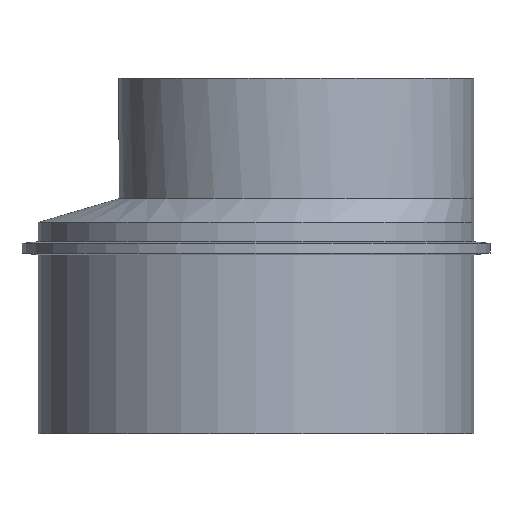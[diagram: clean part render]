
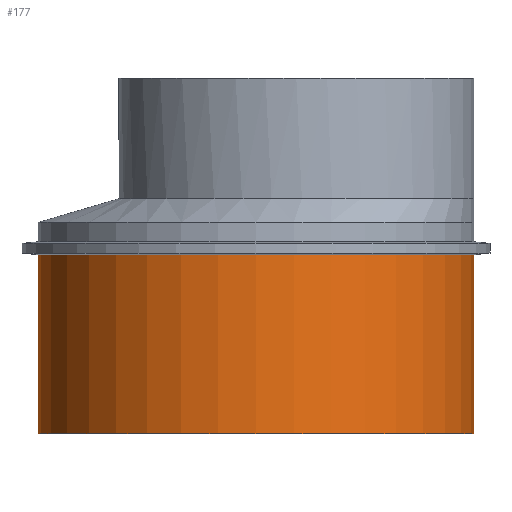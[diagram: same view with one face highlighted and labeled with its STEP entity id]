
A CAD part, front view. The second image highlights one B-rep face of the part: STEP entity #177.
In plain terms, the highlighted cylindrical face has radius 67.5 mm (diameter 135 mm), a full revolution.
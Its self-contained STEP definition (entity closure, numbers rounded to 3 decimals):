
#26=FACE_BOUND($,#57,.T.);
#40=FACE_OUTER_BOUND($,#56,.T.);
#56=EDGE_LOOP($,(#141));
#57=EDGE_LOOP($,(#142));
#66=CIRCLE($,#188,67.5);
#78=CIRCLE($,#205,67.5);
#82=VERTEX_POINT($,#271);
#94=VERTEX_POINT($,#340);
#98=EDGE_CURVE($,#82,#82,#66,.T.);
#112=EDGE_CURVE($,#94,#94,#78,.T.);
#141=ORIENTED_EDGE($,*,*,#98,.T.);
#142=ORIENTED_EDGE($,*,*,#112,.F.);
#154=CYLINDRICAL_SURFACE($,#204,67.5);
#177=ADVANCED_FACE($,(#40,#26),#154,.T.);
#188=AXIS2_PLACEMENT_3D($,#272,#220,#221);
#204=AXIS2_PLACEMENT_3D($,#339,#252,#253);
#205=AXIS2_PLACEMENT_3D($,#341,#254,#255);
#220=DIRECTION('center_axis',(0.,0.,-1.));
#221=DIRECTION('ref_axis',(-1.,0.,0.));
#252=DIRECTION('center_axis',(0.,0.,1.));
#253=DIRECTION('ref_axis',(-1.,0.,0.));
#254=DIRECTION('center_axis',(0.,0.,-1.));
#255=DIRECTION('ref_axis',(-1.,0.,0.));
#271=CARTESIAN_POINT('',(-67.5,0.,55.374));
#272=CARTESIAN_POINT('Origin',(0.,0.,55.374));
#339=CARTESIAN_POINT('Origin',(0.,0.,0.));
#340=CARTESIAN_POINT('',(67.5,0.,0.));
#341=CARTESIAN_POINT('Origin',(0.,0.,0.));
